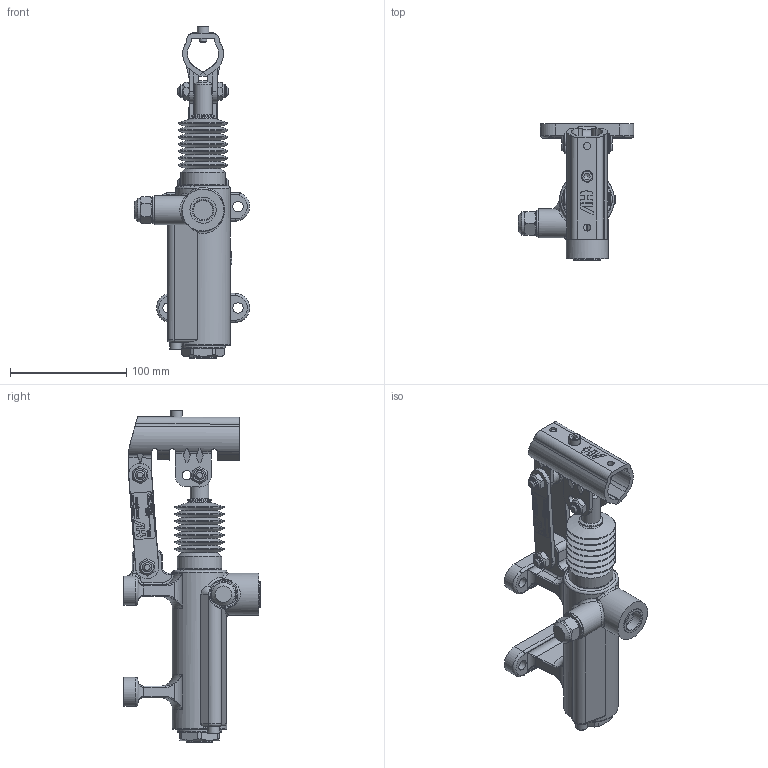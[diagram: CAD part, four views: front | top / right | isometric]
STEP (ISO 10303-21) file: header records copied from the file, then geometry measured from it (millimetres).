
FILE_DESCRIPTION((''),'2;1');
FILE_NAME('G:\HV_HYDRAULIC\AZIENDA_HV_HYDRAULIC\ARCHIVIO_DISEGNI\5_PRODOTTI_FINITI\1_POMPE_MANUALI\6077_PMO_50\6077.0036_PMO_50_byB-e-s_(HV)\6077.0036.stp','2024-03-22T16:28:23',('christian.scardovi'),(''),'Autodesk Inventor 2013','Autodesk Inventor 2013','');
FILE_SCHEMA(('AUTOMOTIVE_DESIGN { 1 0 10303 214 1 1 1 1 }'));
Length unit declared in the file: millimetre
Products named in the file (1): 6077.0036
Bounding box: 99 x 117 x 285.13 mm (x, y, z)
Surface area: 99919.4 mm2
Topology: 2 solids, 3 shells, 1157 faces, 2975 edges, 1882 vertices
Faces by surface type: plane 594, bspline 226, cylinder 183, cone 92, torus 57, sphere 4, revolution 1
Full cylindrical faces by diameter (mm): 6 x4, 8 x10, 9 x4, 10 x2, 11.05 x6, 16 x1, 17.5 x2, 18 x1, 20 x3, 22.5 x2, 23 x1, 25 x1, 36 x1, 38 x1, 38.004 x1
Entity records: 38371 total; most frequent: CARTESIAN_POINT 11147, ORIENTED_EDGE 5668, DIRECTION 4695, EDGE_CURVE 2834, VERTEX_POINT 1864, VECTOR 1622, LINE 1622, AXIS2_PLACEMENT_3D 1536
